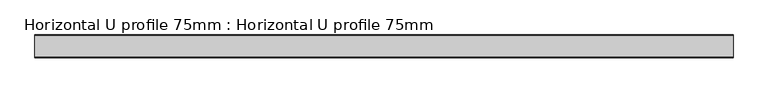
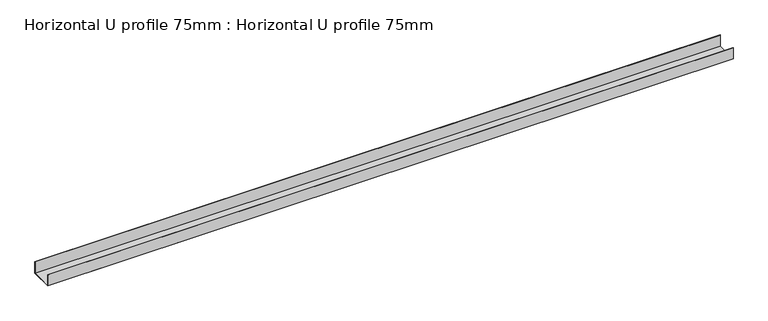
"""IFC4 building model written with IfcOpenShell, lengths in millimetres: proxy geometry, Horizontal U profile 75mm : Horizontal U profile 75mm."""

from ifc_helpers import new_model, si_unit, frame, origin, place, context, project, spatial, polyline, outline, extrude, source, transform, mapped, element, save


def horizontal_u_profile_75mm_horizontal_u_profile_75mm_ae89cfe0(model_context):
    return source(origin(), model_context, "Body", "SweptSolid", [
        extrude(outline(polyline([(-38.8, 0.0), (-38.8, 40.0), (-38.0, 40.0), (-38.0, 0.8), (35.4, 0.8), (35.4, 40.0), (36.2, 40.0), (36.2, 0.0), (-38.8, 0.0)])), frame((0.0, 0.0, 0.0), z_axis=(1.0, 0.0, 0.0), x_axis=(0.0, 1.0, 0.0)), (0.0, 0.0, 1.0), 2300.9638387),
    ])


if __name__ == "__main__":
    model = new_model("IFC4")
    model_context = context("Model", 3, world=origin())
    ifc_project = project(units=[si_unit("LENGTHUNIT", "METRE", prefix="MILLI")], contexts=[model_context])
    site = spatial("IfcSite", under=ifc_project)
    building = spatial("IfcBuilding", under=site)
    placement = place(None, origin())
    horizontal_u_profile_75mm_horizontal_u_profile_75mm_shape = horizontal_u_profile_75mm_horizontal_u_profile_75mm_ae89cfe0(model_context)
    element("IfcBuildingElementProxy", 1, Name="Horizontal U profile 75mm : Horizontal U profile 75mm", ObjectType="Horizontal U profile 75mm : Horizontal U profile 75mm", at=placement, inside=building, context=model_context, shape_type="MappedRepresentation", body=[
        mapped(horizontal_u_profile_75mm_horizontal_u_profile_75mm_shape, transform((0.0, 0.0, 0.0), x_axis=(1.0, 0.0, 0.0), y_axis=(0.0, 1.0, 0.0), z_axis=(0.0, 0.0, 1.0))),
    ])
    save(model, "model.ifc")
